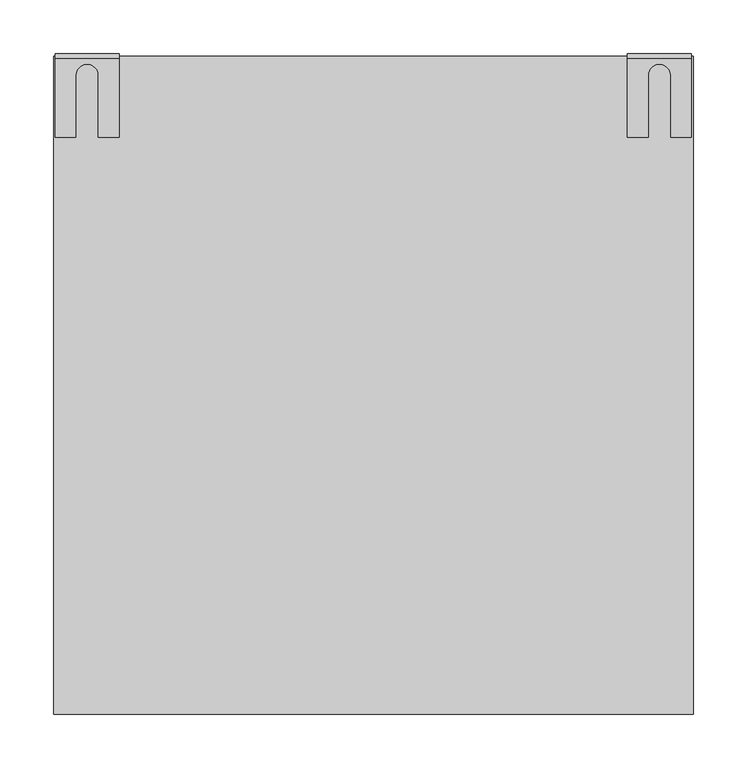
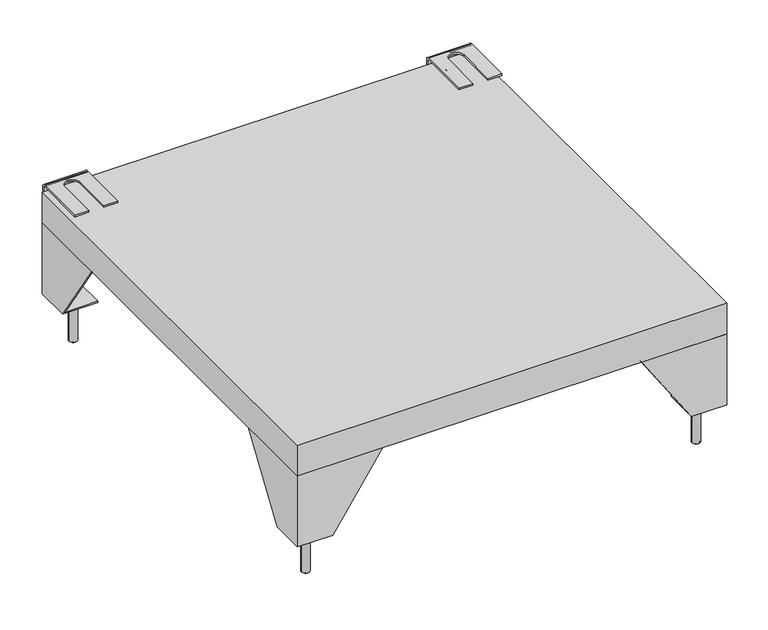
"""IFC4 building model written with IfcOpenShell, lengths in millimetres: proxy geometry, 11318740_D_APCL002_OB : 59590007_D_11318740_APCL002_OB."""

from ifc_helpers import new_model, si_unit, point, frame, frame_2d, origin, origin_with_axes, place, context, project, spatial, polyline, circle_curve, trimmed, segment, composite_curve, outline, extrude, faceted_brep, source, transform, mapped, element, save
from ifc_brep_helpers import plane_surface, cylinder_surface, revolved_surface, advanced_brep


def specialty_equipment_ce1671d5(model_context):
    return source(origin(), model_context, "Body", "SolidModel", [
        extrude(outline(composite_curve([segment(polyline([(-275.1685084, 593.0472117), (-271.3164745, 593.0472117), (-269.4477356, 592.7512326)]), True, "CONTINUOUS"), segment(trimmed(circle_curve(frame_2d((-270.4186229, 590.5839462)), 2.3748163), [point((-269.4477356, 592.7512326))], [point((-269.2989184, 588.4896648))], False, "CARTESIAN"), True, "CONTINUOUS"), segment(trimmed(circle_curve(frame_2d((-270.4582963, 585.9114122)), 2.8269318), [point((-269.2989184, 588.4896648))], [point((-269.7642408, 583.1710052))], False, "CARTESIAN"), True, "CONTINUOUS"), segment(polyline([(-269.7642408, 583.1710052), (-271.2676416, 583.0), (-275.1685084, 583.0), (-275.1685084, 593.0472117)]), True, "CONTINUOUS")], self_intersect=False), holes=[composite_curve([segment(polyline([(-273.913848, 591.7943432), (-273.913848, 588.9670675), (-271.6145851, 588.9670675), (-270.2782884, 589.0839783)]), True, "CONTINUOUS"), segment(trimmed(circle_curve(frame_2d((-270.5352206, 590.3816276)), 1.3228409), [point((-270.2782884, 589.0839783))], [point((-270.1776634, 591.6552291))], True, "CARTESIAN"), True, "CONTINUOUS"), segment(polyline([(-270.1776634, 591.6552291), (-271.7677441, 591.7943432), (-273.913848, 591.7943432)]), True, "CONTINUOUS")], self_intersect=False), composite_curve([segment(polyline([(-271.4580113, 587.7090207), (-273.9143742, 587.7090207), (-273.9143742, 584.2568535), (-271.3578582, 584.2568535), (-270.4244031, 584.3057738)]), True, "CONTINUOUS"), segment(trimmed(circle_curve(frame_2d((-270.5121799, 585.980655)), 1.6771797), [point((-270.4244031, 584.3057738))], [point((-269.9111324, 587.5464372))], True, "CARTESIAN"), True, "CONTINUOUS"), segment(polyline([(-269.9111324, 587.5464372), (-271.4580113, 587.7090207)]), True, "CONTINUOUS")], self_intersect=False)]), frame((0.0, 0.0, -61.0), z_axis=(0.0, 0.0, 1.0), x_axis=(1.0, 0.0, 0.0)), (0.0, 0.0, 1.0), 1.0),
        extrude(outline(composite_curve([segment(polyline([(272.1415369, 32.0472117), (274.0102757, 31.7512326)]), True, "CONTINUOUS"), segment(trimmed(circle_curve(frame_2d((273.0393885, 29.5839462)), 2.3748163), [point((274.0102757, 31.7512326))], [point((274.1590929, 27.4896648))], False, "CARTESIAN"), True, "CONTINUOUS"), segment(trimmed(circle_curve(frame_2d((272.999715, 24.9114122)), 2.8269318), [point((274.1590929, 27.4896648))], [point((273.6937705, 22.1710052))], False, "CARTESIAN"), True, "CONTINUOUS"), segment(polyline([(273.6937705, 22.1710052), (272.1903698, 22.0), (268.2895029, 22.0), (268.2895029, 32.0472117), (272.1415369, 32.0472117)]), True, "CONTINUOUS")], self_intersect=False), holes=[composite_curve([segment(polyline([(269.5441634, 27.9670675), (271.8434263, 27.9670675), (273.1797229, 28.0839783)]), True, "CONTINUOUS"), segment(trimmed(circle_curve(frame_2d((272.9227908, 29.3816276)), 1.3228409), [point((273.1797229, 28.0839783))], [point((273.2803479, 30.6552291))], True, "CARTESIAN"), True, "CONTINUOUS"), segment(polyline([(273.2803479, 30.6552291), (271.6902672, 30.7943432), (269.5441634, 30.7943432), (269.5441634, 27.9670675)]), True, "CONTINUOUS")], self_intersect=False), composite_curve([segment(polyline([(269.5436371, 26.7090207), (269.5436371, 23.2568535), (272.1001532, 23.2568535), (273.0336083, 23.3057738)]), True, "CONTINUOUS"), segment(trimmed(circle_curve(frame_2d((272.9458315, 24.980655)), 1.6771797), [point((273.0336083, 23.3057738))], [point((273.5468789, 26.5464372))], True, "CARTESIAN"), True, "CONTINUOUS"), segment(polyline([(273.5468789, 26.5464372), (272.0, 26.7090207), (269.5436371, 26.7090207)]), True, "CONTINUOUS")], self_intersect=False)]), frame((0.0, 0.0, -61.0), z_axis=(0.0, 0.0, 1.0), x_axis=(1.0, 0.0, 0.0)), (0.0, 0.0, 1.0), 1.0),
        extrude(outline(composite_curve([segment(polyline([(272.1415369, 593.0472117), (274.0102757, 592.7512326)]), True, "CONTINUOUS"), segment(trimmed(circle_curve(frame_2d((273.0393885, 590.5839462)), 2.3748163), [point((274.0102757, 592.7512326))], [point((274.1590929, 588.4896648))], False, "CARTESIAN"), True, "CONTINUOUS"), segment(trimmed(circle_curve(frame_2d((272.999715, 585.9114122)), 2.8269318), [point((274.1590929, 588.4896648))], [point((273.6937705, 583.1710052))], False, "CARTESIAN"), True, "CONTINUOUS"), segment(polyline([(273.6937705, 583.1710052), (272.1903698, 583.0), (268.2895029, 583.0), (268.2895029, 593.0472117), (272.1415369, 593.0472117)]), True, "CONTINUOUS")], self_intersect=False), holes=[composite_curve([segment(polyline([(273.2803479, 591.6552291), (271.6902672, 591.7943432), (269.5441634, 591.7943432), (269.5441634, 588.9670675), (271.8434263, 588.9670675), (273.1797229, 589.0839783)]), True, "CONTINUOUS"), segment(trimmed(circle_curve(frame_2d((272.9227908, 590.3816276)), 1.3228409), [point((273.1797229, 589.0839783))], [point((273.2803479, 591.6552291))], True, "CARTESIAN"), True, "CONTINUOUS")], self_intersect=False), composite_curve([segment(polyline([(272.0, 587.7090207), (269.5436371, 587.7090207), (269.5436371, 584.2568535), (272.1001532, 584.2568535), (273.0336083, 584.3057738)]), True, "CONTINUOUS"), segment(trimmed(circle_curve(frame_2d((272.9458315, 585.980655)), 1.6771797), [point((273.0336083, 584.3057738))], [point((273.5468789, 587.5464372))], True, "CARTESIAN"), True, "CONTINUOUS"), segment(polyline([(273.5468789, 587.5464372), (272.0, 587.7090207)]), True, "CONTINUOUS")], self_intersect=False)]), frame((0.0, 0.0, -61.0), z_axis=(0.0, 0.0, 1.0), x_axis=(1.0, 0.0, 0.0)), (0.0, 0.0, 1.0), 1.0),
        extrude(outline(composite_curve([segment(polyline([(-271.4419527, 32.0472117), (-269.5732138, 31.7512326)]), True, "CONTINUOUS"), segment(trimmed(circle_curve(frame_2d((-270.544101, 29.5839462)), 2.3748163), [point((-269.5732138, 31.7512326))], [point((-269.4243966, 27.4896648))], False, "CARTESIAN"), True, "CONTINUOUS"), segment(trimmed(circle_curve(frame_2d((-270.5837745, 24.9114122)), 2.8269318), [point((-269.4243966, 27.4896648))], [point((-269.889719, 22.1710052))], False, "CARTESIAN"), True, "CONTINUOUS"), segment(polyline([(-269.889719, 22.1710052), (-271.3931197, 22.0), (-275.2939866, 22.0), (-275.2939866, 32.0472117), (-271.4419527, 32.0472117)]), True, "CONTINUOUS")], self_intersect=False), holes=[composite_curve([segment(polyline([(-274.0393261, 30.7943432), (-274.0393261, 27.9670675), (-271.7400632, 27.9670675), (-270.4037666, 28.0839783)]), True, "CONTINUOUS"), segment(trimmed(circle_curve(frame_2d((-270.6606988, 29.3816276)), 1.3228409), [point((-270.4037666, 28.0839783))], [point((-270.3031416, 30.6552291))], True, "CARTESIAN"), True, "CONTINUOUS"), segment(polyline([(-270.3031416, 30.6552291), (-271.8932223, 30.7943432), (-274.0393261, 30.7943432)]), True, "CONTINUOUS")], self_intersect=False), composite_curve([segment(polyline([(-274.0398524, 23.2568535), (-271.4833364, 23.2568535), (-270.5498812, 23.3057738)]), True, "CONTINUOUS"), segment(trimmed(circle_curve(frame_2d((-270.637658, 24.980655)), 1.6771797), [point((-270.5498812, 23.3057738))], [point((-270.0366106, 26.5464372))], True, "CARTESIAN"), True, "CONTINUOUS"), segment(polyline([(-270.0366106, 26.5464372), (-271.5834895, 26.7090207), (-274.0398524, 26.7090207), (-274.0398524, 23.2568535)]), True, "CONTINUOUS")], self_intersect=False)]), frame((0.0, 0.0, -61.0), z_axis=(0.0, 0.0, 1.0), x_axis=(1.0, 0.0, 0.0)), (0.0, 0.0, 1.0), 1.0),
        faceted_brep([(299.0, 615.0, 150.0), (-299.0, 615.0, 150.0), (-299.0, 0.0, 150.0), (299.0, 0.0, 150.0), (299.0, 615.0, 105.0), (299.0, 0.0, 105.0), (-299.0, 0.0, 105.0), (-299.0, 615.0, 105.0), (297.0, 613.0, 105.0), (-297.0, 613.0, 105.0), (-297.0, 2.0, 105.0), (297.0, 2.0, 105.0), (297.0, 613.0, 149.0), (297.0, 2.0, 149.0), (-297.0, 2.0, 149.0), (-297.0, 613.0, 149.0)], [[[0, 1, 2, 3]], [[4, 5, 6, 7], [8, 9, 10, 11]], [[1, 0, 4, 7]], [[2, 1, 7, 6]], [[3, 2, 6, 5]], [[0, 3, 5, 4]], [[12, 13, 14, 15]], [[12, 15, 9, 8]], [[15, 14, 10, 9]], [[14, 13, 11, 10]], [[13, 12, 8, 11]]]),
        advanced_brep(
        [(297.5, 612.5, 161.5), (297.5, 539.5, 161.5), (297.5, 539.5, 159.0), (297.5, 612.5, 159.0), (297.5, 615.0, 156.5), (297.5, 615.0, 79.0), (297.5, 617.5, 79.0), (297.5, 617.5, 156.5), (237.5, 612.5, 161.5), (237.5, 617.5, 156.5), (237.5, 617.5, 79.0), (237.5, 615.0, 79.0), (237.5, 615.0, 156.5), (237.5, 612.5, 159.0), (237.5, 539.5, 159.0), (237.5, 539.5, 161.5), (257.0, 539.5, 161.5), (257.0, 597.0, 161.5), (278.0, 597.0, 161.5), (278.0, 539.5, 161.5), (278.0, 539.5, 159.0), (257.0, 539.5, 159.0), (278.0, 597.0, 159.0), (257.0, 597.0, 159.0), (267.5, 615.0, 137.5), (267.5, 615.0, 130.5), (267.5, 615.0, 95.5), (267.5, 615.0, 88.5), (255.0, 615.0, 127.0), (280.0, 615.0, 127.0), (280.0, 615.0, 102.0), (255.0, 615.0, 102.0), (267.5, 617.5, 130.5), (267.5, 617.5, 137.5), (267.5, 617.5, 88.5), (267.5, 617.5, 95.5), (280.0, 617.5, 127.0), (255.0, 617.5, 127.0), (255.0, 617.5, 102.0), (280.0, 617.5, 102.0)],
        [
            (0, 1),
            (1, 2),
            (2, 3),
            (3, 4, circle_curve(frame((297.5, 612.5, 156.5), z_axis=(-1.0, 0.0, 0.0), x_axis=(0.0, 1.0, 0.0)), 2.5)),
            (4, 5),
            (5, 6),
            (6, 7),
            (7, 0, circle_curve(frame((297.5, 612.5, 156.5), z_axis=(1.0, 0.0, 0.0), x_axis=(0.0, 1.0, 0.0)), 5.0)),
            (8, 9, circle_curve(frame((237.5, 612.5, 156.5), z_axis=(-1.0, 0.0, 0.0), x_axis=(0.0, 1.0, 0.0)), 5.0)),
            (9, 10),
            (10, 11),
            (11, 12),
            (12, 13, circle_curve(frame((237.5, 612.5, 156.5), z_axis=(1.0, 0.0, 0.0), x_axis=(0.0, 1.0, 0.0)), 2.5)),
            (13, 14),
            (14, 15),
            (15, 8),
            (0, 8),
            (15, 16),
            (16, 17),
            (17, 18, circle_curve(frame((267.5, 597.0, 161.5), z_axis=(0.0, 0.0, -1.0), x_axis=(0.0, 1.0, 0.0)), 10.5)),
            (18, 19),
            (19, 1),
            (19, 20),
            (20, 2),
            (14, 21),
            (21, 16),
            (20, 22),
            (22, 23, circle_curve(frame((267.5, 597.0, 159.0), z_axis=(0.0, 0.0, 1.0), x_axis=(0.0, 1.0, 0.0)), 10.5)),
            (23, 21),
            (13, 3),
            (4, 12),
            (11, 5),
            (24, 25, circle_curve(frame((267.5, 615.0, 134.0), z_axis=(0.0, 1.0, 0.0), x_axis=(0.0, 0.0, -1.0)), 3.5)),
            (25, 24, circle_curve(frame((267.5, 615.0, 134.0), z_axis=(0.0, 1.0, 0.0), x_axis=(0.0, 0.0, -1.0)), 3.5)),
            (26, 27, circle_curve(frame((267.5, 615.0, 92.0), z_axis=(0.0, 1.0, 0.0), x_axis=(0.0, 0.0, -1.0)), 3.5)),
            (27, 26, circle_curve(frame((267.5, 615.0, 92.0), z_axis=(0.0, 1.0, 0.0), x_axis=(0.0, 0.0, -1.0)), 3.5)),
            (28, 29),
            (29, 30),
            (30, 31),
            (31, 28),
            (10, 6),
            (9, 7),
            (32, 33, circle_curve(frame((267.5, 617.5, 134.0), z_axis=(0.0, -1.0, 0.0), x_axis=(0.0, 0.0, -1.0)), 3.5)),
            (33, 32, circle_curve(frame((267.5, 617.5, 134.0), z_axis=(0.0, -1.0, 0.0), x_axis=(0.0, 0.0, -1.0)), 3.5)),
            (34, 35, circle_curve(frame((267.5, 617.5, 92.0), z_axis=(0.0, -1.0, 0.0), x_axis=(0.0, 0.0, -1.0)), 3.5)),
            (35, 34, circle_curve(frame((267.5, 617.5, 92.0), z_axis=(0.0, -1.0, 0.0), x_axis=(0.0, 0.0, -1.0)), 3.5)),
            (36, 37),
            (37, 38),
            (38, 39),
            (39, 36),
            (18, 22),
            (17, 23),
            (24, 33),
            (32, 25),
            (26, 35),
            (34, 27),
            (28, 37),
            (36, 29),
            (39, 30),
            (38, 31),
        ],
        [
            plane_surface(frame((297.5, 539.5, 161.5), z_axis=(1.0, 0.0, 0.0), x_axis=(0.0, -1.0, 0.0))),
            plane_surface(frame((237.5, 539.5, 161.5), z_axis=(-1.0, 0.0, 0.0), x_axis=(0.0, 1.0, 0.0))),
            plane_surface(frame((297.5, 612.5, 161.5), z_axis=(0.0, 0.0, 1.0), x_axis=(-1.0, 0.0, 0.0))),
            plane_surface(frame((297.5, 539.5, 161.5), z_axis=(0.0, -1.0, 0.0), x_axis=(-1.0, 0.0, 0.0))),
            plane_surface(frame((297.5, 539.5, 159.0), z_axis=(0.0, 0.0, -1.0), x_axis=(-1.0, 0.0, 0.0))),
            plane_surface(frame((297.5, 615.0, 156.5), z_axis=(0.0, -1.0, 0.0), x_axis=(-1.0, 0.0, 0.0))),
            plane_surface(frame((297.5, 615.0, 79.0), z_axis=(0.0, 0.0, -1.0), x_axis=(-1.0, 0.0, 0.0))),
            plane_surface(frame((297.5, 617.5, 79.0), z_axis=(0.0, 1.0, 0.0), x_axis=(-1.0, 0.0, 0.0))),
            plane_surface(frame((278.0, 539.5, 161.5), z_axis=(-1.0, 0.0, 0.0), x_axis=(0.0, 0.0, -1.0))),
            revolved_surface(polyline([(267.5, 607.5, 161.5), (267.5, 607.5, 159.0)]), (267.5, 597.0, 150.0), (0.0, 0.0, 1.0)),
            plane_surface(frame((257.0, 597.0, 161.5), z_axis=(1.0, 0.0, 0.0), x_axis=(0.0, 0.0, -1.0))),
            revolved_surface(polyline([(267.5, 617.5, 130.5), (267.5, 615.0, 130.5)]), (267.5, 609.795944, 134.0), (0.0, 1.0, 0.0)),
            revolved_surface(polyline([(267.5, 617.5, 88.5), (267.5, 615.0, 88.5)]), (267.5, 617.5, 92.0), (0.0, 1.0, 0.0)),
            plane_surface(frame((255.0, 617.5, 127.0), z_axis=(0.0, 0.0, -1.0), x_axis=(0.0, -1.0, 0.0))),
            plane_surface(frame((280.0, 617.5, 127.0), z_axis=(-1.0, 0.0, 0.0), x_axis=(0.0, -1.0, 0.0))),
            plane_surface(frame((280.0, 617.5, 102.0), z_axis=(0.0, 0.0, 1.0), x_axis=(0.0, -1.0, 0.0))),
            plane_surface(frame((255.0, 617.5, 102.0), z_axis=(1.0, 0.0, 0.0), x_axis=(0.0, -1.0, 0.0))),
            revolved_surface(polyline([(237.5, 615.0, 156.5), (297.5, 615.0, 156.5)]), (237.5, 612.5, 156.5), (-1.0, 0.0, 0.0)),
            cylinder_surface(frame((237.5, 612.5, 156.5), z_axis=(1.0, 0.0, 0.0), x_axis=(0.0, 1.0, 0.0)), 5.0),
        ],
        [
            (0, [[1, 2, 3, 4, 5, 6, 7, 8]]),
            (1, [[9, 10, 11, 12, 13, 14, 15, 16]]),
            (2, [[-1, 17, -16, 18, 19, 20, 21, 22]]),
            (3, [[-2, -22, 23, 24]]),
            (3, [[-15, 25, 26, -18]]),
            (4, [[-3, -24, 27, 28, 29, -25, -14, 30]]),
            (5, [[-5, 31, -12, 32], [33, 34], [35, 36], [37, 38, 39, 40]]),
            (6, [[-6, -32, -11, 41]]),
            (7, [[-7, -41, -10, 42], [43, 44], [45, 46], [47, 48, 49, 50]]),
            (8, [[51, -27, -23, -21]]),
            (9, [[-51, -20, 52, -28]]),
            (10, [[-52, -19, -26, -29]]),
            (11, [[53, -43, 54, -33]]),
            (11, [[-53, -34, -54, -44]]),
            (12, [[55, -45, 56, -35]]),
            (12, [[-55, -36, -56, -46]]),
            (13, [[57, -47, 58, -37]]),
            (14, [[-58, -50, 59, -38]]),
            (15, [[-59, -49, 60, -39]]),
            (16, [[-57, -40, -60, -48]]),
            (17, [[-4, -30, -13, -31]]),
            (18, [[-8, -42, -9, -17]]),
        ],
    ),
        advanced_brep(
        [(-237.5, 617.5, 156.5), (-237.5, 612.5, 161.5), (-237.5, 539.5, 161.5), (-237.5, 539.5, 159.0), (-237.5, 612.5, 159.0), (-237.5, 615.0, 156.5), (-237.5, 615.0, 79.0), (-237.5, 617.5, 79.0), (-297.5, 617.5, 156.5), (-297.5, 617.5, 79.0), (-297.5, 615.0, 79.0), (-297.5, 615.0, 156.5), (-297.5, 612.5, 159.0), (-297.5, 539.5, 159.0), (-297.5, 539.5, 161.5), (-297.5, 612.5, 161.5), (-278.0, 539.5, 161.5), (-278.0, 597.0, 161.5), (-267.5, 607.5, 161.5), (-257.0, 597.0, 161.5), (-257.0, 539.5, 161.5), (-257.0, 539.5, 159.0), (-278.0, 539.5, 159.0), (-257.0, 597.0, 159.0), (-267.5, 607.5, 159.0), (-278.0, 597.0, 159.0), (-255.0, 615.0, 127.0), (-255.0, 615.0, 102.0), (-280.0, 615.0, 102.0), (-280.0, 615.0, 127.0), (-267.5, 615.0, 95.5), (-267.5, 615.0, 88.5), (-267.5, 615.0, 137.5), (-267.5, 615.0, 130.5), (-255.0, 617.5, 102.0), (-255.0, 617.5, 127.0), (-280.0, 617.5, 127.0), (-280.0, 617.5, 102.0), (-267.5, 617.5, 88.5), (-267.5, 617.5, 95.5), (-267.5, 617.5, 130.5), (-267.5, 617.5, 137.5)],
        [
            (0, 1, circle_curve(frame((-237.5, 612.5, 156.5), z_axis=(1.0, 0.0, 0.0), x_axis=(0.0, 1.0, 0.0)), 5.0)),
            (1, 2),
            (2, 3),
            (3, 4),
            (4, 5, circle_curve(frame((-237.5, 612.5, 156.5), z_axis=(-1.0, 0.0, 0.0), x_axis=(0.0, 1.0, 0.0)), 2.5)),
            (5, 6),
            (6, 7),
            (7, 0),
            (8, 9),
            (9, 10),
            (10, 11),
            (11, 12, circle_curve(frame((-297.5, 612.5, 156.5), z_axis=(1.0, 0.0, 0.0), x_axis=(0.0, 1.0, 0.0)), 2.5)),
            (12, 13),
            (13, 14),
            (14, 15),
            (15, 8, circle_curve(frame((-297.5, 612.5, 156.5), z_axis=(-1.0, 0.0, 0.0), x_axis=(0.0, 1.0, 0.0)), 5.0)),
            (1, 15),
            (14, 16),
            (16, 17),
            (17, 18, circle_curve(frame((-267.5, 597.0, 161.5), z_axis=(0.0, 0.0, -1.0), x_axis=(0.0, -1.0, 0.0)), 10.5)),
            (18, 19, circle_curve(frame((-267.5, 597.0, 161.5), z_axis=(0.0, 0.0, -1.0), x_axis=(0.0, -1.0, 0.0)), 10.5)),
            (19, 20),
            (20, 2),
            (20, 21),
            (21, 3),
            (13, 22),
            (22, 16),
            (21, 23),
            (23, 24, circle_curve(frame((-267.5, 597.0, 159.0), z_axis=(0.0, 0.0, 1.0), x_axis=(0.0, -1.0, 0.0)), 10.5)),
            (24, 25, circle_curve(frame((-267.5, 597.0, 159.0), z_axis=(0.0, 0.0, 1.0), x_axis=(0.0, -1.0, 0.0)), 10.5)),
            (25, 22),
            (12, 4),
            (5, 11),
            (10, 6),
            (26, 27),
            (27, 28),
            (28, 29),
            (29, 26),
            (30, 31, circle_curve(frame((-267.5, 615.0, 92.0), z_axis=(0.0, 1.0, 0.0), x_axis=(0.0, 0.0, -1.0)), 3.5)),
            (31, 30, circle_curve(frame((-267.5, 615.0, 92.0), z_axis=(0.0, 1.0, 0.0), x_axis=(0.0, 0.0, -1.0)), 3.5)),
            (32, 33, circle_curve(frame((-267.5, 615.0, 134.0), z_axis=(0.0, 1.0, 0.0), x_axis=(0.0, 0.0, -1.0)), 3.5)),
            (33, 32, circle_curve(frame((-267.5, 615.0, 134.0), z_axis=(0.0, 1.0, 0.0), x_axis=(0.0, 0.0, -1.0)), 3.5)),
            (9, 7),
            (8, 0),
            (34, 35),
            (35, 36),
            (36, 37),
            (37, 34),
            (38, 39, circle_curve(frame((-267.5, 617.5, 92.0), z_axis=(0.0, -1.0, 0.0), x_axis=(0.0, 0.0, -1.0)), 3.5)),
            (39, 38, circle_curve(frame((-267.5, 617.5, 92.0), z_axis=(0.0, -1.0, 0.0), x_axis=(0.0, 0.0, -1.0)), 3.5)),
            (40, 41, circle_curve(frame((-267.5, 617.5, 134.0), z_axis=(0.0, -1.0, 0.0), x_axis=(0.0, 0.0, -1.0)), 3.5)),
            (41, 40, circle_curve(frame((-267.5, 617.5, 134.0), z_axis=(0.0, -1.0, 0.0), x_axis=(0.0, 0.0, -1.0)), 3.5)),
            (24, 18),
            (17, 25),
            (19, 23),
            (26, 35),
            (34, 27),
            (37, 28),
            (36, 29),
            (30, 39),
            (38, 31),
            (32, 41),
            (40, 33),
        ],
        [
            plane_surface(frame((-237.5, 617.5, 156.5), z_axis=(1.0, 0.0, 0.0), x_axis=(0.0, 0.0, 1.0))),
            plane_surface(frame((-297.5, 617.5, 156.5), z_axis=(-1.0, 0.0, 0.0), x_axis=(0.0, 0.0, -1.0))),
            plane_surface(frame((-237.5, 612.5, 161.5), z_axis=(0.0, 0.0, 1.0), x_axis=(-1.0, 0.0, 0.0))),
            plane_surface(frame((-237.5, 539.5, 161.5), z_axis=(0.0, -1.0, 0.0), x_axis=(-1.0, 0.0, 0.0))),
            plane_surface(frame((-237.5, 539.5, 159.0), z_axis=(0.0, 0.0, -1.0), x_axis=(-1.0, 0.0, 0.0))),
            plane_surface(frame((-237.5, 615.0, 156.5), z_axis=(0.0, -1.0, 0.0), x_axis=(-1.0, 0.0, 0.0))),
            plane_surface(frame((-237.5, 615.0, 79.0), z_axis=(0.0, 0.0, -1.0), x_axis=(-1.0, 0.0, 0.0))),
            plane_surface(frame((-237.5, 617.5, 79.0), z_axis=(0.0, 1.0, 0.0), x_axis=(-1.0, 0.0, 0.0))),
            revolved_surface(polyline([(-267.5, 586.5, 161.5), (-267.5, 586.5, 159.0)]), (-267.5, 597.0, 150.0), (0.0, 0.0, 1.0)),
            plane_surface(frame((-278.0, 597.0, 161.5), z_axis=(1.0, 0.0, 0.0), x_axis=(0.0, 0.0, -1.0))),
            plane_surface(frame((-257.0, 539.5, 161.5), z_axis=(-1.0, 0.0, 0.0), x_axis=(0.0, 0.0, -1.0))),
            cylinder_surface(frame((-297.5, 612.5, 156.5), z_axis=(1.0, 0.0, 0.0), x_axis=(0.0, 1.0, 0.0)), 5.0),
            revolved_surface(polyline([(-297.5, 615.0, 156.5), (-237.5, 615.0, 156.5)]), (-297.5, 612.5, 156.5), (-1.0, 0.0, 0.0)),
            plane_surface(frame((-255.0, 617.5, 127.0), z_axis=(-1.0, 0.0, 0.0), x_axis=(0.0, -1.0, 0.0))),
            plane_surface(frame((-255.0, 617.5, 102.0), z_axis=(0.0, 0.0, 1.0), x_axis=(0.0, -1.0, 0.0))),
            plane_surface(frame((-280.0, 617.5, 102.0), z_axis=(1.0, 0.0, 0.0), x_axis=(0.0, -1.0, 0.0))),
            plane_surface(frame((-280.0, 617.5, 127.0), z_axis=(0.0, 0.0, -1.0), x_axis=(0.0, -1.0, 0.0))),
            revolved_surface(polyline([(-267.5, 617.5, 88.5), (-267.5, 615.0, 88.5)]), (-267.5, 617.5, 92.0), (0.0, 1.0, 0.0)),
            revolved_surface(polyline([(-267.5, 617.5, 130.5), (-267.5, 615.0, 130.5)]), (-267.5, 617.5, 134.0), (0.0, 1.0, 0.0)),
        ],
        [
            (0, [[1, 2, 3, 4, 5, 6, 7, 8]]),
            (1, [[9, 10, 11, 12, 13, 14, 15, 16]]),
            (2, [[-2, 17, -15, 18, 19, 20, 21, 22, 23]]),
            (3, [[-3, -23, 24, 25]]),
            (3, [[-14, 26, 27, -18]]),
            (4, [[-4, -25, 28, 29, 30, 31, -26, -13, 32]]),
            (5, [[-6, 33, -11, 34], [35, 36, 37, 38], [39, 40], [41, 42]]),
            (6, [[-7, -34, -10, 43]]),
            (7, [[-8, -43, -9, 44], [45, 46, 47, 48], [49, 50], [51, 52]]),
            (8, [[53, -20, 54, -30]]),
            (9, [[-54, -19, -27, -31]]),
            (10, [[55, -28, -24, -22]]),
            (8, [[-53, -29, -55, -21]]),
            (11, [[-1, -44, -16, -17]]),
            (12, [[-5, -32, -12, -33]]),
            (13, [[56, -45, 57, -35]]),
            (14, [[-57, -48, 58, -36]]),
            (15, [[-58, -47, 59, -37]]),
            (16, [[-56, -38, -59, -46]]),
            (17, [[60, -49, 61, -39]]),
            (17, [[-60, -40, -61, -50]]),
            (18, [[62, -51, 63, -41]]),
            (18, [[-62, -42, -63, -52]]),
        ],
    ),
        extrude(outline(composite_curve([segment(trimmed(circle_curve(frame_2d((-272.0, 588.0)), 6.0), [point((-266.0, 588.0))], [point((-278.0, 588.0))], False, "CARTESIAN"), True, "CONTINUOUS"), segment(trimmed(circle_curve(frame_2d((-272.0, 588.0)), 6.0), [point((-278.0, 588.0))], [point((-266.0, 588.0))], False, "CARTESIAN"), True, "CONTINUOUS")], self_intersect=False)), frame((0.0, 0.0, -60.0), z_axis=(0.0, 0.0, 1.0), x_axis=(1.0, 0.0, 0.0)), (0.0, 0.0, 1.0), 60.0),
        extrude(outline(composite_curve([segment(trimmed(circle_curve(frame_2d((-272.0, 27.0)), 6.0), [point((-266.0, 27.0))], [point((-278.0, 27.0))], False, "CARTESIAN"), True, "CONTINUOUS"), segment(trimmed(circle_curve(frame_2d((-272.0, 27.0)), 6.0), [point((-278.0, 27.0))], [point((-266.0, 27.0))], False, "CARTESIAN"), True, "CONTINUOUS")], self_intersect=False)), frame((0.0, 0.0, -60.0), z_axis=(0.0, 0.0, 1.0), x_axis=(1.0, 0.0, 0.0)), (0.0, 0.0, 1.0), 60.0),
        extrude(outline(composite_curve([segment(trimmed(circle_curve(frame_2d((272.0, 27.0)), 6.0), [point((278.0, 27.0))], [point((266.0, 27.0))], False, "CARTESIAN"), True, "CONTINUOUS"), segment(trimmed(circle_curve(frame_2d((272.0, 27.0)), 6.0), [point((266.0, 27.0))], [point((278.0, 27.0))], False, "CARTESIAN"), True, "CONTINUOUS")], self_intersect=False)), frame((0.0, 0.0, -60.0), z_axis=(0.0, 0.0, 1.0), x_axis=(1.0, 0.0, 0.0)), (0.0, 0.0, 1.0), 60.0),
        extrude(outline(composite_curve([segment(trimmed(circle_curve(frame_2d((272.0, 588.0)), 6.0), [point((278.0, 588.0))], [point((266.0, 588.0))], False, "CARTESIAN"), True, "CONTINUOUS"), segment(trimmed(circle_curve(frame_2d((272.0, 588.0)), 6.0), [point((266.0, 588.0))], [point((278.0, 588.0))], False, "CARTESIAN"), True, "CONTINUOUS")], self_intersect=False)), frame((0.0, 0.0, -60.0), z_axis=(0.0, 0.0, 1.0), x_axis=(1.0, 0.0, 0.0)), (0.0, 0.0, 1.0), 60.0),
        extrude(outline(polyline([(-250.0, 613.0), (-250.0, 566.0), (-297.0, 566.0), (-297.0, 613.0), (-250.0, 613.0)])), origin_with_axes(), (0.0, 0.0, 1.0), 2.0),
        extrude(outline(polyline([(297.0, 613.0), (297.0, 566.0), (250.0, 566.0), (250.0, 613.0), (297.0, 613.0)])), origin_with_axes(), (0.0, 0.0, 1.0), 2.0),
        extrude(outline(polyline([(-250.0, 49.0), (-250.0, 2.0), (-297.0, 2.0), (-297.0, 49.0), (-250.0, 49.0)])), origin_with_axes(), (0.0, 0.0, 1.0), 2.0),
        extrude(outline(polyline([(297.0, 49.0), (297.0, 2.0), (250.0, 2.0), (250.0, 49.0), (297.0, 49.0)])), origin_with_axes(), (0.0, 0.0, 1.0), 2.0),
        faceted_brep([(180.0, 613.0, 105.0), (297.0, 613.0, 105.0), (297.0, 496.0, 105.0), (299.0, 496.0, 105.0), (299.0, 615.0, 105.0), (180.0, 615.0, 105.0), (250.0, 615.0, 0.0), (299.0, 615.0, 0.0), (299.0, 566.0, 0.0), (297.0, 566.0, 0.0), (297.0, 613.0, 0.0), (250.0, 613.0, 0.0)], [[[0, 1, 2, 3, 4, 5]], [[6, 7, 8, 9, 10, 11]], [[1, 0, 11, 10]], [[2, 1, 10, 9]], [[4, 3, 8, 7]], [[5, 4, 7, 6]], [[0, 5, 6, 11]], [[3, 2, 9, 8]]]),
        faceted_brep([(-297.0, 496.0, 105.0), (-297.0, 613.0, 105.0), (-180.0, 613.0, 105.0), (-180.0, 615.0, 105.0), (-299.0, 615.0, 105.0), (-299.0, 496.0, 105.0), (-299.0, 615.0, 0.0), (-250.0, 615.0, 0.0), (-250.0, 613.0, 0.0), (-297.0, 613.0, 0.0), (-297.0, 566.0, 0.0), (-299.0, 566.0, 0.0)], [[[0, 1, 2, 3, 4, 5]], [[6, 7, 8, 9, 10, 11]], [[1, 0, 10, 9]], [[2, 1, 9, 8]], [[4, 3, 7, 6]], [[5, 4, 6, 11]], [[3, 2, 8, 7]], [[0, 5, 11, 10]]]),
        faceted_brep([(-180.0, 2.0, 105.0), (-297.0, 2.0, 105.0), (-297.0, 119.0, 105.0), (-299.0, 119.0, 105.0), (-299.0, 0.0, 105.0), (-180.0, 0.0, 105.0), (-250.0, 0.0, 0.0), (-299.0, 0.0, 0.0), (-299.0, 49.0, 0.0), (-297.0, 49.0, 0.0), (-297.0, 2.0, 0.0), (-250.0, 2.0, 0.0)], [[[0, 1, 2, 3, 4, 5]], [[6, 7, 8, 9, 10, 11]], [[1, 0, 11, 10]], [[2, 1, 10, 9]], [[4, 3, 8, 7]], [[5, 4, 7, 6]], [[0, 5, 6, 11]], [[3, 2, 9, 8]]]),
        faceted_brep([(297.0, 119.0, 105.0), (297.0, 2.0, 105.0), (180.0, 2.0, 105.0), (180.0, 0.0, 105.0), (299.0, 0.0, 105.0), (299.0, 119.0, 105.0), (299.0, 0.0, 0.0), (250.0, 0.0, 0.0), (250.0, 2.0, 0.0), (297.0, 2.0, 0.0), (297.0, 49.0, 0.0), (299.0, 49.0, 0.0)], [[[0, 1, 2, 3, 4, 5]], [[6, 7, 8, 9, 10, 11]], [[1, 0, 10, 9]], [[2, 1, 9, 8]], [[4, 3, 7, 6]], [[5, 4, 6, 11]], [[3, 2, 8, 7]], [[0, 5, 11, 10]]]),
    ])


if __name__ == "__main__":
    model = new_model("IFC4")
    model_context = context("Model", 3, world=origin())
    ifc_project = project(units=[si_unit("LENGTHUNIT", "METRE", prefix="MILLI")], contexts=[model_context])
    site = spatial("IfcSite", under=ifc_project)
    building = spatial("IfcBuilding", under=site)
    placement = place(None, origin())
    specialty_equipment_shape = specialty_equipment_ce1671d5(model_context)
    element("IfcBuildingElementProxy", 1, Name="11318740_D_APCL002_OB : 59590007_D_11318740_APCL002_OB", ObjectType="11318740_D_APCL002_OB : 59590007_D_11318740_APCL002_OB", at=placement, inside=building, context=model_context, shape_type="MappedRepresentation", body=[
        mapped(specialty_equipment_shape, transform((0.0, 0.0, 0.0), x_axis=(1.0, 0.0, 0.0), y_axis=(0.0, 1.0, 0.0), z_axis=(0.0, 0.0, 1.0))),
    ])
    save(model, "model.ifc")
